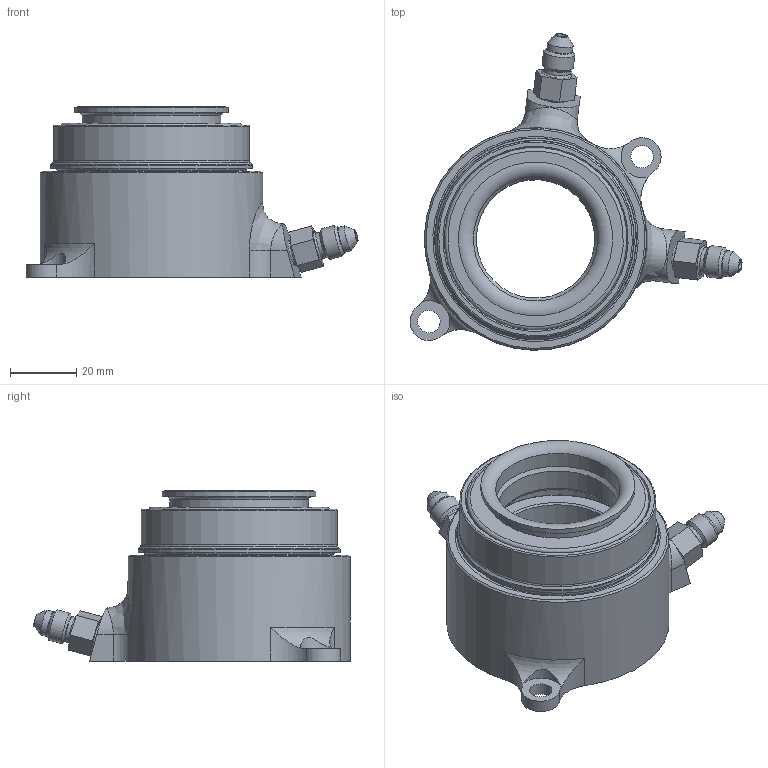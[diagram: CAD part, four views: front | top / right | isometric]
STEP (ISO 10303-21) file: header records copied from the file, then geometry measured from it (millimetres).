
FILE_DESCRIPTION(/* description */ ('Unknown'),/* implementation_level */ '2;1');
FILE_NAME(/* name */ '60-8220',/* time_stamp */ '2021-11-16T05:07:48-08:00',/* author */ ('Unknown'),/* organization */ ('Unknown'),/* preprocessor_version */ 'ST-DEVELOPER v16.7',/* originating_system */ 'DEX',/* authorisation */ $);
FILE_SCHEMA (('AUTOMOTIVE_DESIGN {1 0 10303 214 3 1 1}'));
Length unit declared in the file: millimetre
Products named in the file (1): 60-8220
Bounding box: 100.12 x 95.47 x 51.37 mm (x, y, z)
Volume: 106195.1 mm3; surface area: 31114.3 mm2
Topology: 1 solids, 1 shells, 117 faces, 259 edges, 161 vertices
Faces by surface type: plane 39, cylinder 39, torus 22, cone 15, bspline 2
Full cylindrical faces by diameter (mm): 3.175 x2, 6.756 x2, 7.734 x2, 7.925 x4, 9.525 x2, 35.7 x1, 37.49 x1, 38.1 x1, 41.984 x1, 46.457 x1, 47.714 x1, 54.991 x1, 54.997 x1, 57.061 x1, 59.182 x1, 60.96 x1, 61.925 x1, 67.056 x1
Entity records: 3945 total; most frequent: CARTESIAN_POINT 748, DIRECTION 518, ORIENTED_EDGE 376, AXIS2_PLACEMENT_3D 224, EDGE_LOOP 200, FACE_BOUND 200, EDGE_CURVE 188, VERTEX_POINT 150
